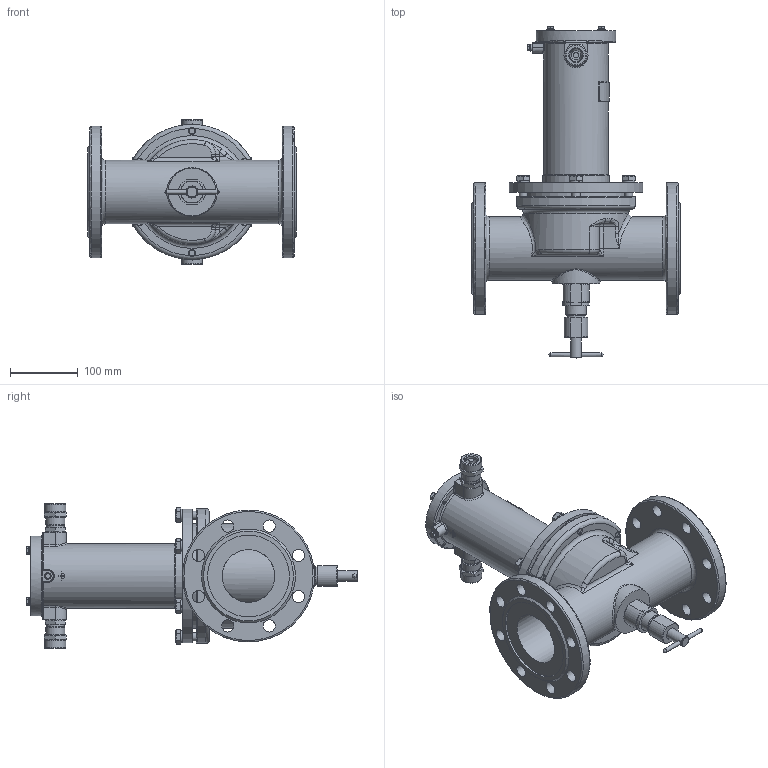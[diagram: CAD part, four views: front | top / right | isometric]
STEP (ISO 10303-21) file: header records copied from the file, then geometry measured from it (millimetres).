
FILE_DESCRIPTION(('STEP AP203'), '1');
FILE_NAME('ÑÅÍÑ DN80PN25.stp', '2018-09-19T08:33:54', ('Îðëîâ Å.Â.'), ('ÎÎÎ ÍÏÏ Ñåíñîð'), 'ASCON STEP Converter 1.3', 'Kompas 3D', '');
FILE_SCHEMA(('CONFIG_CONTROL_DESIGN','SUPPORT_RESOURCE_SCHEMA'));
Length unit declared in the file: millimetre
Products named in the file (1): 4
Bounding box: 308 x 491.2 x 214 mm (x, y, z)
Volume: 3027101.6 mm3; surface area: 698543.4 mm2
Topology: 3 solids, 18 shells, 1975 faces, 5288 edges, 3426 vertices
Faces by surface type: cylinder 1004, plane 723, cone 119, bspline 56, torus 49, extrusion 16, sphere 8
Full cylindrical faces by diameter (mm): 3.5 x2, 4.134 x1, 4.917 x4, 5 x1, 6 x9, 6.5 x4, 8 x4, 10 x1, 10.106 x6, 12 x10, 13 x8, 16 x2, 17 x2, 18 x17, 18.632 x2, 20 x3, 22 x2, 22.376 x2, 23 x1, 23.5 x2, 24 x2, 24.5 x2, 26 x4, 26.376 x2, 27.8 x1, 28 x3, 28.5 x2, 30 x2, 31 x2, 53 x1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
Entity records: 79873 total; most frequent: CARTESIAN_POINT 29593, DIRECTION 10811, ORIENTED_EDGE 10522, EDGE_CURVE 5261, AXIS2_PLACEMENT_3D 4159, VERTEX_POINT 3426, VECTOR 2493, LINE 2477
